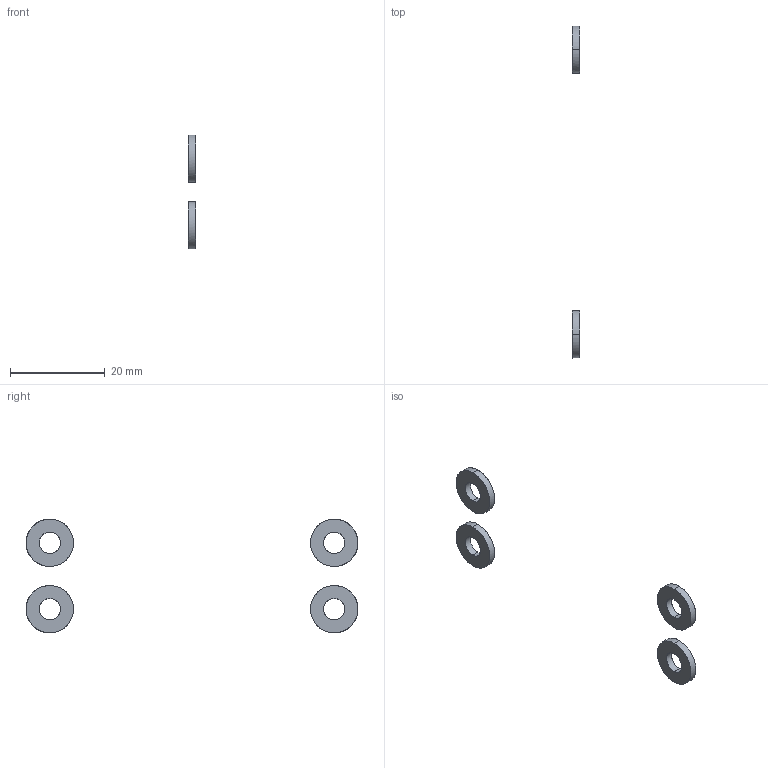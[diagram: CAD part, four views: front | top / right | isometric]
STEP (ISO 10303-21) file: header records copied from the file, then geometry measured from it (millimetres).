
FILE_DESCRIPTION(/* description */ (''),/* implementation_level */ '2;1');
FILE_NAME(/* name */ '5.y-cart#5.7#PACK-SPWFN4',/* time_stamp */ '2014-12-01T20:13:31+01:00',/* author */ (''),/* organization */ (''),/* preprocessor_version */ 'ST-DEVELOPER v14',/* originating_system */ '',/* authorisation */ '');
FILE_SCHEMA (('AUTOMOTIVE_DESIGN'));
Length unit declared in the file: millimetre
Products named in the file (2): Document; washer DIN9021-like, form G, M4
Assembly tree (2 placements, depth 2):
  Document
    washer DIN9021-like, form G, M4  x2
Bounding box: 1.5 x 70 x 24 mm (x, y, z)
Surface area: 774.6 mm2 (no closed solid volume)
Topology: 0 solids, 24 shells, 24 faces, 80 edges, 80 vertices
Faces by surface type: bspline 16, plane 8
Entity records: 1539 total; most frequent: CARTESIAN_POINT 767, B_SPLINE_CURVE_WITH_KNOTS 72, ORIENTED_EDGE 60, PCURVE 60, DEFINITIONAL_REPRESENTATION 60, SURFACE_CURVE 60, EDGE_CURVE 60, VERTEX_POINT 60
